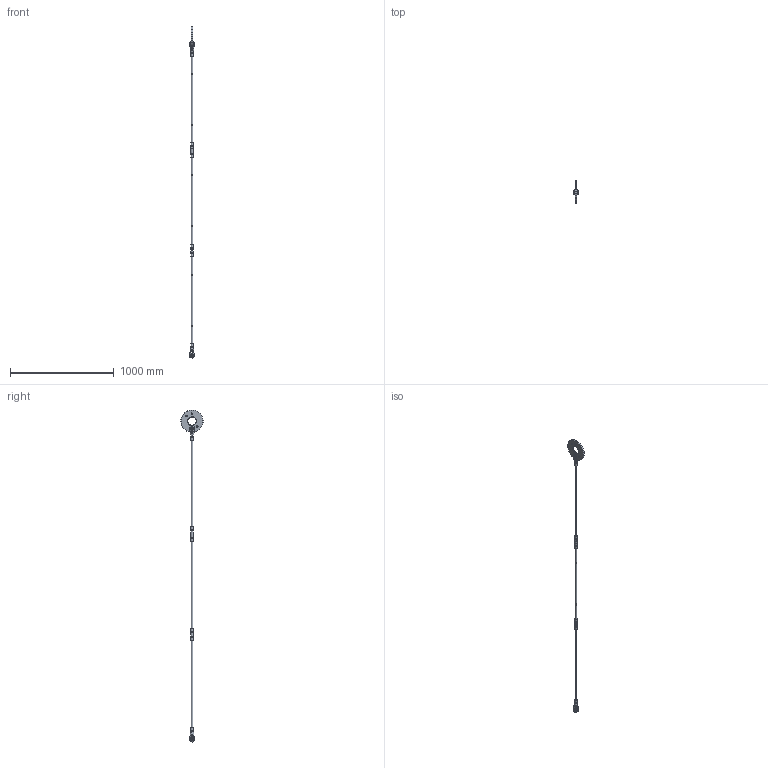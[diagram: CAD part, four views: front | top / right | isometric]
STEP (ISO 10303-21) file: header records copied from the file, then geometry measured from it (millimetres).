
FILE_DESCRIPTION(/* description */ (''),/* implementation_level */ '2;1');
FILE_NAME(/* name */ 'C:\Vault-WS\Anker\Werksnorm\Hochbau\ASDO-System\ASDO-S\System Komplett\Step\M 016.stp',/* time_stamp */ '2014-01-29T09:46:45+01:00',/* author */ ('ritgen'),/* organization */ (''),/* preprocessor_version */ 'ST-DEVELOPER v15.2',/* originating_system */ 'Autodesk Inventor 2014',/* authorisation */ '');
FILE_SCHEMA (('AUTOMOTIVE_DESIGN { 1 0 10303 214 3 1 1 }'));
Length unit declared in the file: millimetre
Products named in the file (10): ASDO-005752; ASDO-000254; DIN 471 - 16x1 - C67; ASDO-013926; ASDO-001597; ASDO-001318; ASDO-001443; ASDO-006278; ASDO-013967; ASDO-006279
Bounding box: 45 x 214.8 x 3201.13 mm (x, y, z)
Volume: 1226771.8 mm3; surface area: 310750.6 mm2
Topology: 18 solids, 18 shells, 433 faces, 934 edges, 577 vertices
Faces by surface type: bspline 144, plane 142, cylinder 79, torus 38, cone 30
Full cylindrical faces by diameter (mm): 1.7 x4, 3.5 x18, 13.835 x10, 14.9 x2, 16 x7, 17 x8, 17.5 x6, 21 x2, 22.5 x6, 24 x2, 80 x1, 215 x1
Entity records: 13577 total; most frequent: CARTESIAN_POINT 9553, ORIENTED_EDGE 740, DIRECTION 718, EDGE_CURVE 370, AXIS2_PLACEMENT_3D 325, EDGE_LOOP 290, VERTEX_POINT 254, ADVANCED_FACE 198
